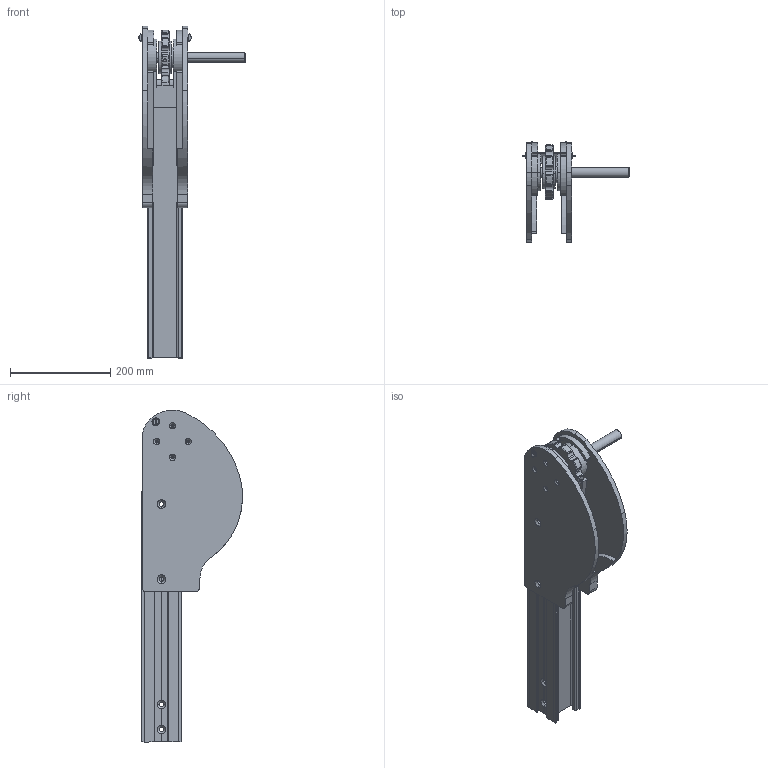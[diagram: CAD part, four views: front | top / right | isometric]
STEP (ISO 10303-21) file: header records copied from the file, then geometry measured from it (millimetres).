
FILE_DESCRIPTION (( 'STEP AP203' ), '1' );
FILE_NAME ('R1M-G20.STEP', '2008-11-24T14:41:12', ( 'faber' ), ( '' ), 'SwSTEP 2.0', 'SolidWorks 2008', '' );
FILE_SCHEMA (( 'CONFIG_CONTROL_DESIGN' ));
Length unit declared in the file: millimetre
Products named in the file (1): R1M-G20
Bounding box: 212.47 x 201.88 x 663 mm (x, y, z)
Surface area: 638304.6 mm2 (no closed solid volume)
Topology: 0 solids, 18 shells, 411 faces, 1491 edges, 1059 vertices
Faces by surface type: cylinder 187, plane 152, cone 46, bspline 26
Entity records: 17977 total; most frequent: CARTESIAN_POINT 5325, DIRECTION 2586, ORIENTED_EDGE 2535, EDGE_CURVE 1491, VERTEX_POINT 1059, AXIS2_PLACEMENT_3D 934, VECTOR 718, LINE 718
